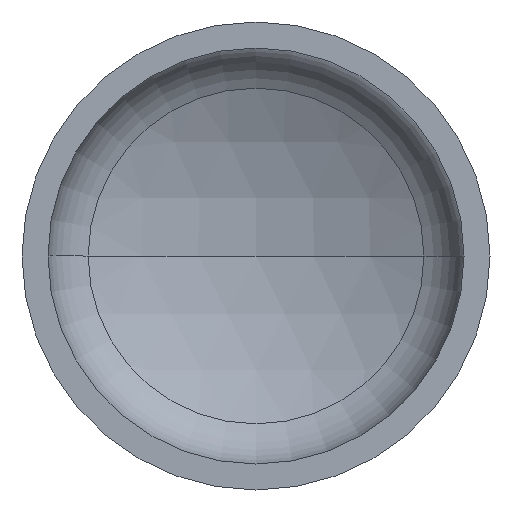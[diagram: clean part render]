
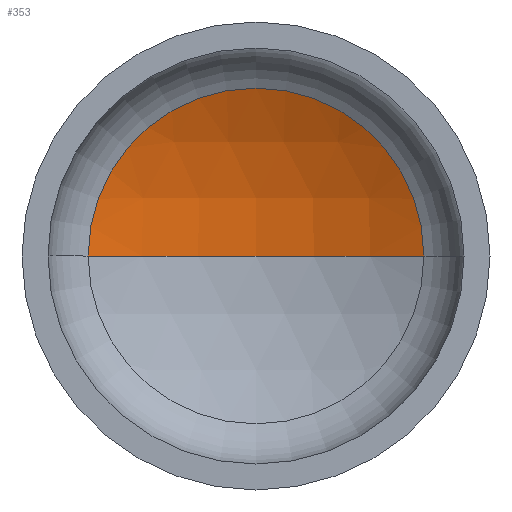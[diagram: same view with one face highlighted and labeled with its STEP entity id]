
A CAD part, front view. The second image highlights one B-rep face of the part: STEP entity #353.
In plain terms, the highlighted spherical face has radius 720 mm.
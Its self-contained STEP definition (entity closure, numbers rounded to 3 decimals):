
#21 = AXIS2_PLACEMENT_3D ( 'NONE', #98, #84, #261 ) ;
#22 = EDGE_LOOP ( 'NONE', ( #101, #88, #115 ) ) ;
#26 = VERTEX_POINT ( 'NONE', #228 ) ;
#34 = DIRECTION ( 'NONE',  ( -1., 0., 0. ) ) ;
#36 = VERTEX_POINT ( 'NONE', #202 ) ;
#53 = AXIS2_PLACEMENT_3D ( 'NONE', #383, #236, #237 ) ;
#68 = DIRECTION ( 'NONE',  ( 0., 0., -1. ) ) ;
#84 = DIRECTION ( 'NONE',  ( 0., 0., -1. ) ) ;
#85 = AXIS2_PLACEMENT_3D ( 'NONE', #96, #68, #34 ) ;
#88 = ORIENTED_EDGE ( 'NONE', *, *, #352, .T. ) ;
#96 = CARTESIAN_POINT ( 'NONE',  ( 0., -368.459, 0. ) ) ;
#98 = CARTESIAN_POINT ( 'NONE',  ( 0., -368.459, 0. ) ) ;
#101 = ORIENTED_EDGE ( 'NONE', *, *, #368, .F. ) ;
#115 = ORIENTED_EDGE ( 'NONE', *, *, #320, .T. ) ;
#126 = DIRECTION ( 'NONE',  ( 0., -1., 0. ) ) ;
#132 = DIRECTION ( 'NONE',  ( 1., 0., 0. ) ) ;
#183 = CIRCLE ( 'NONE', #53, 720. ) ;
#198 = VERTEX_POINT ( 'NONE', #396 ) ;
#202 = CARTESIAN_POINT ( 'NONE',  ( 322.759, 275.145, 0. ) ) ;
#203 = CIRCLE ( 'NONE', #376, 322.759 ) ;
#228 = CARTESIAN_POINT ( 'NONE',  ( 0., 351.541, 0. ) ) ;
#236 = DIRECTION ( 'NONE',  ( 0., 0., 1. ) ) ;
#237 = DIRECTION ( 'NONE',  ( 1., 0., 0. ) ) ;
#261 = DIRECTION ( 'NONE',  ( -1., 0., 0. ) ) ;
#269 = CIRCLE ( 'NONE', #21, 720. ) ;
#320 = EDGE_CURVE ( 'NONE', #36, #198, #203, .T. ) ;
#334 = SPHERICAL_SURFACE ( 'NONE', #85, 720. ) ;
#352 = EDGE_CURVE ( 'NONE', #26, #36, #269, .T. ) ;
#353 = ADVANCED_FACE ( 'NONE', ( #390 ), #334, .F. ) ;
#357 = CARTESIAN_POINT ( 'NONE',  ( 0., 275.145, 0. ) ) ;
#368 = EDGE_CURVE ( 'NONE', #26, #198, #183, .T. ) ;
#376 = AXIS2_PLACEMENT_3D ( 'NONE', #357, #126, #132 ) ;
#383 = CARTESIAN_POINT ( 'NONE',  ( 0., -368.459, 0. ) ) ;
#390 = FACE_OUTER_BOUND ( 'NONE', #22, .T. ) ;
#396 = CARTESIAN_POINT ( 'NONE',  ( -322.759, 275.145, 0. ) ) ;
